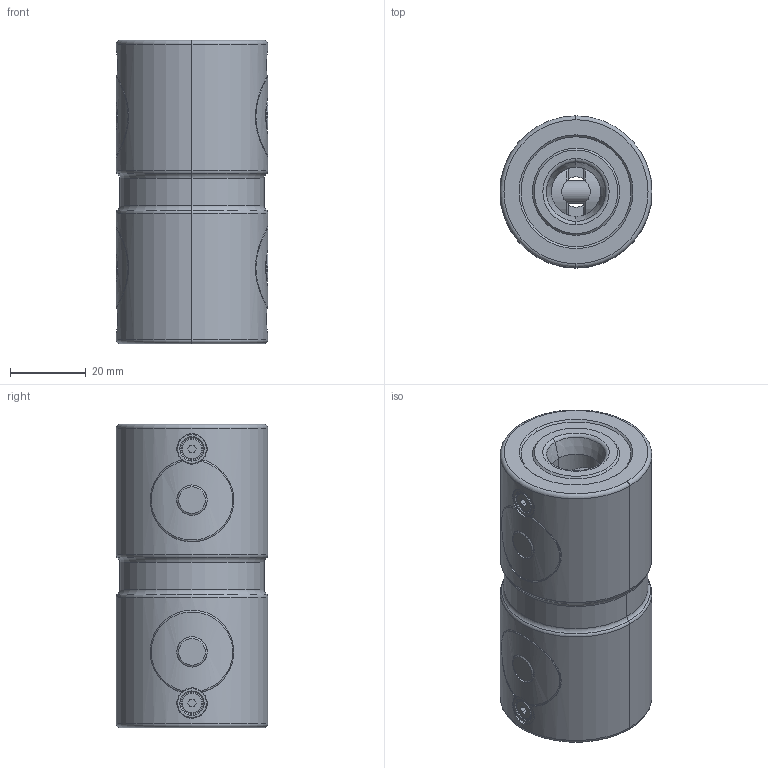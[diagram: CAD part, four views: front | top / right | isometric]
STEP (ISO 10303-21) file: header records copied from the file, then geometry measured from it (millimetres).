
FILE_DESCRIPTION (( 'STEP AP203' ), '1' );
FILE_NAME ('cp151-08080.STEP', '2021-10-25T23:52:35', ( '' ), ( '' ), 'SwSTEP 2.0', 'SolidWorks 2020', '' );
FILE_SCHEMA (( 'CONFIG_CONTROL_DESIGN' ));
Length unit declared in the file: millimetre
Products named in the file (8): cp151-08080_05; cp151-08080_02; cp151-08080; cp151-08080_01; cp151-08080_07; cp151-08080_04; cp151-08080_06; cp151-08080_03
Assembly tree (7 placements, depth 2):
  cp151-08080
    cp151-08080_01
    cp151-08080_02
    cp151-08080_03
    cp151-08080_04
    cp151-08080_05
    cp151-08080_06
    cp151-08080_07
Bounding box: 40 x 40 x 80 mm (x, y, z)
Volume: 88983.1 mm3; surface area: 28574.2 mm2
Topology: 7 solids, 7 shells, 374 faces, 840 edges, 516 vertices
Faces by surface type: cylinder 124, cone 100, plane 98, torus 44, bspline 8
Entity records: 15432 total; most frequent: CARTESIAN_POINT 6214, DIRECTION 1828, ORIENTED_EDGE 1680, EDGE_CURVE 840, AXIS2_PLACEMENT_3D 752, VERTEX_POINT 516, EDGE_LOOP 428, CIRCLE 376
